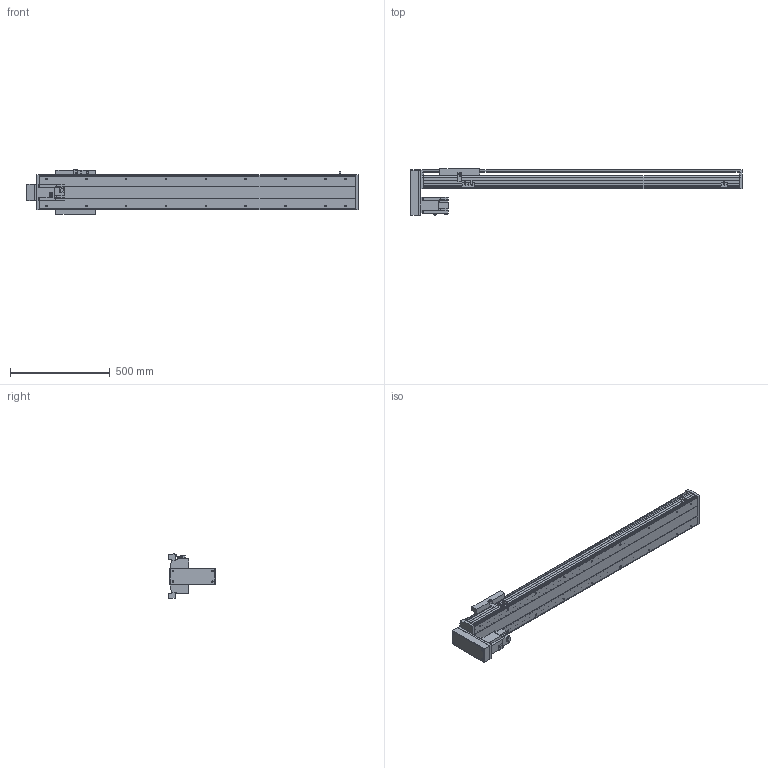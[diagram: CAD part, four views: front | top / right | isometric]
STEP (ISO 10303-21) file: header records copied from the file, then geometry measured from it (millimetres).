
FILE_DESCRIPTION(/* description */ ('STEP AP214'),/* implementation_level */ '2;1');
FILE_NAME(/* name */ 'PSS200-L10-S1250-BM-T75-C1-N(0)',/* time_stamp */ '2022-06-29T09:55:16+02:00',/* author */ ('License CC BY-ND 4.0'),/* organization */ ('CADENAS'),/* preprocessor_version */ 'ST-DEVELOPER v18.102',/* originating_system */ 'PARTsolutions',/* authorisation */ ' ');
FILE_SCHEMA (('AUTOMOTIVE_DESIGN {1 0 10303 214 3 1 1}'));
Length unit declared in the file: millimetre
Products named in the file (8): PSS200-L10-S1250-BM-T75-C1-N(0); PSS200-S1250-BM-N_S; T75-p1; PSS200BM-N_h; PSS200-N_sensor; PSS200-BM-C1-N_sl; PSS200-N_Q; PSS200-S1250-BM-C1-N_body
Assembly tree (9 placements, depth 2):
  PSS200-L10-S1250-BM-T75-C1-N(0)
    PSS200-S1250-BM-N_S
    T75-p1
    PSS200BM-N_h
    PSS200-N_sensor  x3
    PSS200-BM-C1-N_sl
    PSS200-N_Q
    PSS200-S1250-BM-C1-N_body
Bounding box: 1666.85 x 234.45 x 223.86 mm (x, y, z)
Volume: 10366131.6 mm3; surface area: 2565253.2 mm2
Topology: 9 solids, 9 shells, 610 faces, 1637 edges, 1086 vertices
Faces by surface type: plane 452, cylinder 128, cone 26, sphere 4
Full cylindrical faces by diameter (mm): 4 x2, 4.5 x4, 6 x7, 6.647 x22, 7.4 x4, 8 x8, 10 x6, 25 x1, 40 x1, 67 x1
Entity records: 16960 total; most frequent: CARTESIAN_POINT 2933, DIRECTION 2807, ORIENTED_EDGE 2758, EDGE_CURVE 1379, LINE 1071, VECTOR 1071, VERTEX_POINT 962, AXIS2_PLACEMENT_3D 868
